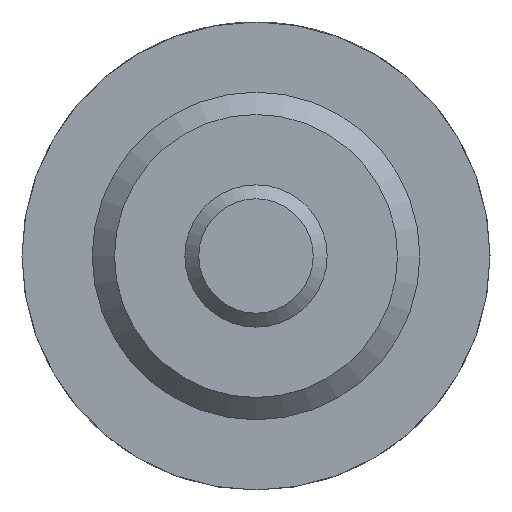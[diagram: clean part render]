
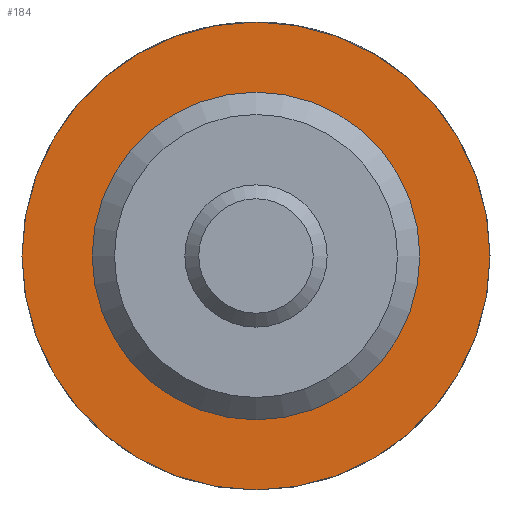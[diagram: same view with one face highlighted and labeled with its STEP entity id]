
A CAD part, left-side view. The second image highlights one B-rep face of the part: STEP entity #184.
In plain terms, the highlighted planar face has unit normal (-1, 0, 0).
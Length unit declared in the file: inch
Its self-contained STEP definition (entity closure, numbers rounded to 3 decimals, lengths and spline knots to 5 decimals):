
#184 = ADVANCED_FACE( '', ( #375, #376 ), #377, .F. );
#375 = FACE_OUTER_BOUND( '', #551, .T. );
#376 = FACE_BOUND( '', #552, .T. );
#377 = PLANE( '', #553 );
#551 = EDGE_LOOP( '', ( #814 ) );
#552 = EDGE_LOOP( '', ( #815 ) );
#553 = AXIS2_PLACEMENT_3D( '', #816, #817, #818 );
#814 = ORIENTED_EDGE( '', *, *, #907, .F. );
#815 = ORIENTED_EDGE( '', *, *, #930, .T. );
#816 = CARTESIAN_POINT( '', ( 0.375, 0.2185, 0. ) );
#817 = DIRECTION( '', ( 1., 0., 0. ) );
#818 = DIRECTION( '', ( 0., 0., -1. ) );
#907 = EDGE_CURVE( '', #1041, #1041, #1042, .T. );
#930 = EDGE_CURVE( '', #1071, #1071, #1072, .T. );
#1041 = VERTEX_POINT( '', #1262 );
#1042 = CIRCLE( '', #1263, 0.3125 );
#1071 = VERTEX_POINT( '', #1365 );
#1072 = CIRCLE( '', #1366, 0.2185 );
#1262 = CARTESIAN_POINT( '', ( 0.375, 0., -0.3125 ) );
#1263 = AXIS2_PLACEMENT_3D( '', #1476, #1477, #1478 );
#1365 = CARTESIAN_POINT( '', ( 0.375, 0., -0.2185 ) );
#1366 = AXIS2_PLACEMENT_3D( '', #1495, #1496, #1497 );
#1476 = CARTESIAN_POINT( '', ( 0.375, 0., 0. ) );
#1477 = DIRECTION( '', ( 1., 0., 0. ) );
#1478 = DIRECTION( '', ( 0., 0., -1. ) );
#1495 = CARTESIAN_POINT( '', ( 0.375, 0., 0. ) );
#1496 = DIRECTION( '', ( 1., 0., 0. ) );
#1497 = DIRECTION( '', ( 0., 0., -1. ) );
